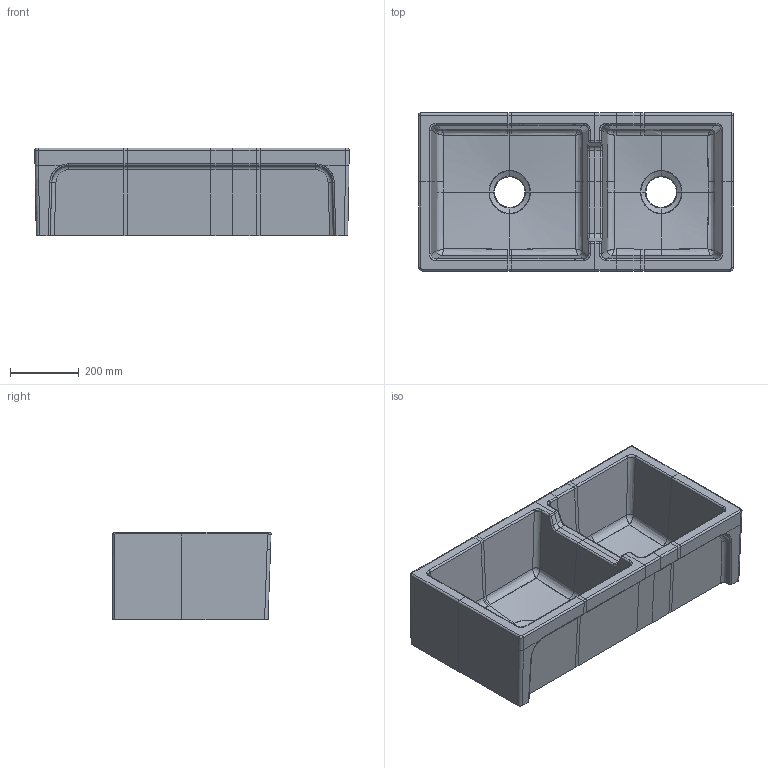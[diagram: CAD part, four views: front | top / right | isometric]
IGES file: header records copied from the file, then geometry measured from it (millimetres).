
Start section: START RECORD GO HERE.
Global section: file name: 5121_3D.igs; native system: DASSAULT SYSTEMES CATIA V5 R19 - www.3ds.com; preprocessor: CATIA Version 5 Release 19 SP 5 ; author: gioge; organization: LAPTOP-G94B6G74; date: 20201024.100317; units: millimetre
Bounding box: 915.22 x 460.02 x 254.72 mm (x, y, z)
Surface area: 2096412.6 mm2 (no closed solid volume)
Topology: 0 solids, 0 shells, 334 faces, 1530 edges, 1520 vertices
Faces by surface type: bspline 174, revolution 108, plane 50, extrusion 2
